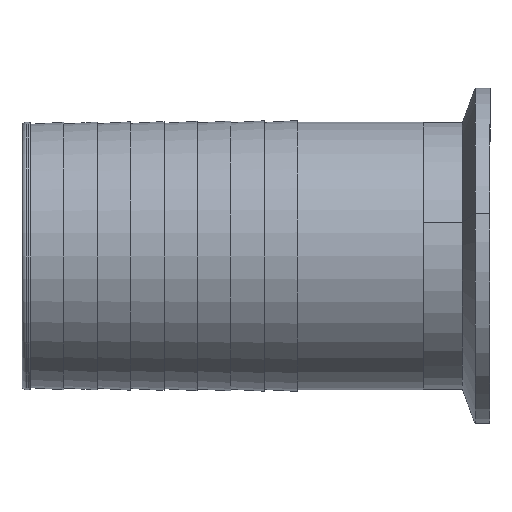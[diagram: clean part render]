
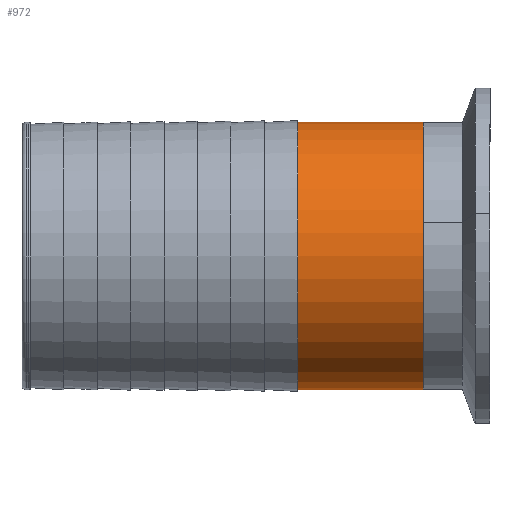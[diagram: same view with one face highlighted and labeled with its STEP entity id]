
A CAD part, front view. The second image highlights one B-rep face of the part: STEP entity #972.
In plain terms, the highlighted cylindrical face has radius 25.4 mm (diameter 50.8 mm), a partial arc.
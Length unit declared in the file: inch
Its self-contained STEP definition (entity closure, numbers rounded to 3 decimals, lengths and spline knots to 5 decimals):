
#60 = CARTESIAN_POINT ( 'NONE',  ( -0.93794, 0., 1. ) ) ;
#80 = CARTESIAN_POINT ( 'NONE',  ( 0., 0., -1. ) ) ;
#207 = AXIS2_PLACEMENT_3D ( 'NONE', #1625, #757, #1773 ) ;
#258 = CIRCLE ( 'NONE', #207, 1. ) ;
#329 = CIRCLE ( 'NONE', #335, 1. ) ;
#331 = VERTEX_POINT ( 'NONE', #1492 ) ;
#335 = AXIS2_PLACEMENT_3D ( 'NONE', #377, #1371, #528 ) ;
#377 = CARTESIAN_POINT ( 'NONE',  ( -0.93794, 0., 0. ) ) ;
#379 = VECTOR ( 'NONE', #597, 39.37008 ) ;
#394 = LINE ( 'NONE', #80, #398 ) ;
#398 = VECTOR ( 'NONE', #671, 39.37008 ) ;
#499 = CYLINDRICAL_SURFACE ( 'NONE', #632, 1. ) ;
#509 = DIRECTION ( 'NONE',  ( 0., 0., -1. ) ) ;
#522 = LINE ( 'NONE', #1456, #379 ) ;
#528 = DIRECTION ( 'NONE',  ( 0., 0., -1. ) ) ;
#597 = DIRECTION ( 'NONE',  ( 1., 0., 0. ) ) ;
#632 = AXIS2_PLACEMENT_3D ( 'NONE', #1354, #1066, #509 ) ;
#671 = DIRECTION ( 'NONE',  ( 1., 0., 0. ) ) ;
#757 = DIRECTION ( 'NONE',  ( 1., 0., 0. ) ) ;
#758 = FACE_OUTER_BOUND ( 'NONE', #1712, .T. ) ;
#771 = VERTEX_POINT ( 'NONE', #1231 ) ;
#945 = VERTEX_POINT ( 'NONE', #60 ) ;
#972 = ADVANCED_FACE ( 'NONE', ( #758 ), #499, .T. ) ;
#1009 = ORIENTED_EDGE ( 'NONE', *, *, #1581, .F. ) ;
#1011 = VERTEX_POINT ( 'NONE', #1828 ) ;
#1023 = EDGE_CURVE ( 'NONE', #945, #771, #329, .T. ) ;
#1039 = EDGE_CURVE ( 'NONE', #771, #331, #394, .T. ) ;
#1066 = DIRECTION ( 'NONE',  ( 1., 0., 0. ) ) ;
#1231 = CARTESIAN_POINT ( 'NONE',  ( -0.93794, 0., -1. ) ) ;
#1307 = ORIENTED_EDGE ( 'NONE', *, *, #1023, .T. ) ;
#1354 = CARTESIAN_POINT ( 'NONE',  ( 0., 0., 0. ) ) ;
#1371 = DIRECTION ( 'NONE',  ( 1., 0., 0. ) ) ;
#1432 = ORIENTED_EDGE ( 'NONE', *, *, #1555, .F. ) ;
#1456 = CARTESIAN_POINT ( 'NONE',  ( 0., 0., 1. ) ) ;
#1492 = CARTESIAN_POINT ( 'NONE',  ( 0., 0., -1. ) ) ;
#1555 = EDGE_CURVE ( 'NONE', #1011, #331, #258, .T. ) ;
#1581 = EDGE_CURVE ( 'NONE', #945, #1011, #522, .T. ) ;
#1625 = CARTESIAN_POINT ( 'NONE',  ( 0., 0., 0. ) ) ;
#1712 = EDGE_LOOP ( 'NONE', ( #1009, #1307, #1881, #1432 ) ) ;
#1773 = DIRECTION ( 'NONE',  ( 0., 0., -1. ) ) ;
#1828 = CARTESIAN_POINT ( 'NONE',  ( 0., 0., 1. ) ) ;
#1881 = ORIENTED_EDGE ( 'NONE', *, *, #1039, .T. ) ;
